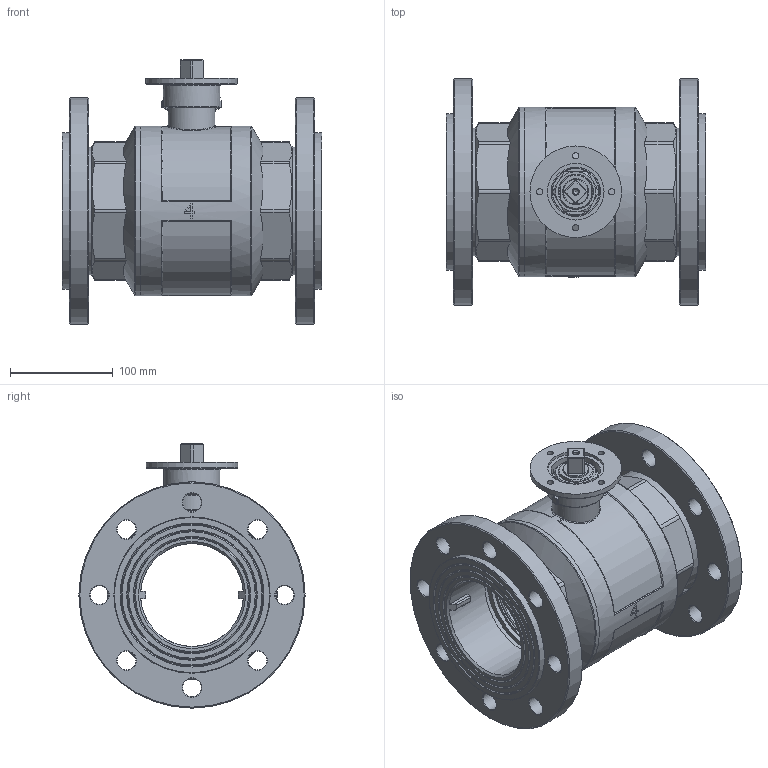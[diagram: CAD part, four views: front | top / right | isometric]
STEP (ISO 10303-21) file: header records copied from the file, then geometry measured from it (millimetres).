
FILE_DESCRIPTION(/* description */ ('Corpo femmina Rastelli 004'),/* implementation_level */ '2;1');
FILE_NAME(/* name */ '\\dcidrosfer01\user$\ut4\Desktop\TICOM 14-11-2014\95 PM ISO E DN 100.stp',/* time_stamp */ '2014-11-14T11:45:38+01:00',/* author */ ('ut4'),/* organization */ (''),/* preprocessor_version */ 'ST-DEVELOPER v15.6',/* originating_system */ 'Autodesk Inventor 2015',/* authorisation */ '');
FILE_SCHEMA (('AUTOMOTIVE_DESIGN { 1 0 10303 214 3 1 1 }'));
Length unit declared in the file: millimetre
Products named in the file (16): Corpo femmina Rastelli 004; Manicotto femmina Rastelli 004; Sede 004 mot.; O-ring 117.07 x 3.53; sfera Rastelli 004; Perno mot. ISO 37 q17; O-ring 18.72 x 2.62; Ghiera ferma asta mot. 40; O-ring 32.99 x 2.62; Dado bloccaggio piastra 46x8; Anello antigrip. Rastelli perno mot. ISO 37; Dischetto portamotore  SM 47 x 39 lavorato; Flangia PN16 DN100; Bocchettone DN100; O-ring 112 x 2.5; Valvola a sfera mot. 004 art.95 PM ISO F05 Q14
Assembly tree (22 placements, depth 2):
  Valvola a sfera mot. 004 art.95 PM ISO F05 Q14
    Corpo femmina Rastelli 004
    Manicotto femmina Rastelli 004
    Sede 004 mot.  x2
    O-ring 117.07 x 3.53  x2
    sfera Rastelli 004
    Perno mot. ISO 37 q17
    O-ring 18.72 x 2.62  x2
    Ghiera ferma asta mot. 40
    O-ring 32.99 x 2.62
    Dado bloccaggio piastra 46x8
    Anello antigrip. Rastelli perno mot. ISO 37  x2
    Dischetto portamotore  SM 47 x 39 lavorato
    Flangia PN16 DN100  x2
    Bocchettone DN100  x2
    O-ring 112 x 2.5  x2
Bounding box: 252.5 x 220 x 257 mm (x, y, z)
Volume: 2917255.7 mm3; surface area: 696674.7 mm2
Topology: 22 solids, 22 shells, 515 faces, 1184 edges, 726 vertices
Faces by surface type: cylinder 169, plane 168, cone 104, torus 35, bspline 30, sphere 9
Full cylindrical faces by diameter (mm): 4.917 x1, 6.2 x4, 18 x16, 21 x2, 25 x3, 25.3 x1, 31 x1, 31.8 x1, 32 x1, 32.3 x2, 32.5 x1, 34 x2, 34.4 x1, 37.5 x3, 38 x2, 38.5 x1, 40 x1, 46 x2, 47.5 x1, 48 x1, 55 x2, 89 x1, 100 x7, 110.5 x2, 113 x2, 117 x4, 124 x6, 130 x1, 132 x1, 134 x2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
Entity records: 13240 total; most frequent: CARTESIAN_POINT 3861, DIRECTION 1848, ORIENTED_EDGE 1640, EDGE_CURVE 820, AXIS2_PLACEMENT_3D 807, EDGE_LOOP 644, VERTEX_POINT 580, FACE_OUTER_BOUND 430
